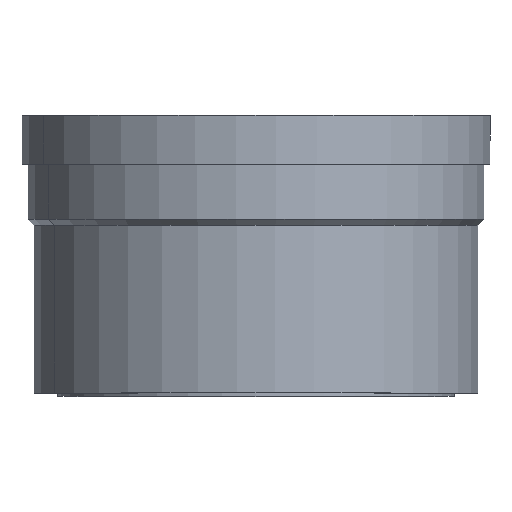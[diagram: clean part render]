
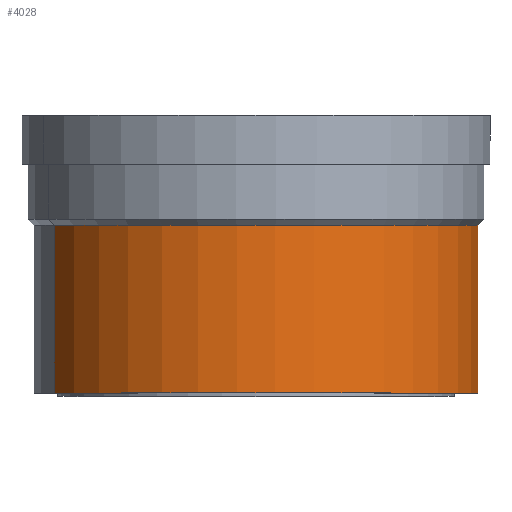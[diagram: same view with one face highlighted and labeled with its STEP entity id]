
A CAD part, top view. The second image highlights one B-rep face of the part: STEP entity #4028.
In plain terms, the highlighted cylindrical face has radius 36.5 mm (diameter 73 mm), a partial arc.
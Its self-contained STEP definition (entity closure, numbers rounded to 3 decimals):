
#392=CARTESIAN_POINT('',(0.,-4.,0.));
#393=DIRECTION('',(0.,1.,0.));
#394=DIRECTION('',(-0.906,0.,0.423));
#395=AXIS2_PLACEMENT_3D('',#392,#393,#394);
#397=DIRECTION('',(0.,-1.,0.));
#398=VECTOR('',#397,27.5);
#399=CARTESIAN_POINT('',(-33.08,-4.,15.426));
#400=LINE('',#399,#398);
#401=DIRECTION('',(0.,1.,0.));
#402=VECTOR('',#401,27.5);
#403=CARTESIAN_POINT('',(33.08,-31.5,-15.426));
#404=LINE('',#403,#402);
#415=CARTESIAN_POINT('',(0.,-31.5,0.));
#416=DIRECTION('',(0.,1.,0.));
#417=DIRECTION('',(-0.906,0.,0.423));
#418=AXIS2_PLACEMENT_3D('',#415,#416,#417);
#3093=CARTESIAN_POINT('',(-33.08,-4.,
15.426));
#3095=VERTEX_POINT('',#3093);
#3098=CARTESIAN_POINT('',(33.08,-4.,-15.426));
#3100=VERTEX_POINT('',#3098);
#3101=CARTESIAN_POINT('',(-33.08,-31.5,15.426));
#3102=VERTEX_POINT('',#3101);
#3103=CARTESIAN_POINT('',(33.08,-31.5,-15.426));
#3104=VERTEX_POINT('',#3103);
#4014=CARTESIAN_POINT('',(0.,-32.05,0.));
#4015=DIRECTION('',(0.,1.,0.));
#4016=DIRECTION('',(0.906,0.,-0.423));
#4017=AXIS2_PLACEMENT_3D('',#4014,#4015,#4016);
#4018=CYLINDRICAL_SURFACE('',#4017,36.5);
#4020=ORIENTED_EDGE('',*,*,#4019,.F.);
#4021=ORIENTED_EDGE('',*,*,#4009,.T.);
#4023=ORIENTED_EDGE('',*,*,#4022,.F.);
#4025=ORIENTED_EDGE('',*,*,#4024,.F.);
#4026=EDGE_LOOP('',(#4020,#4021,#4023,#4025));
#4027=FACE_OUTER_BOUND('',#4026,.F.);
#396=CIRCLE('',#395,36.5);
#419=CIRCLE('',#418,36.5);
#4009=EDGE_CURVE('',#3095,#3100,#396,.T.);
#4019=EDGE_CURVE('',#3095,#3102,#400,.T.);
#4022=EDGE_CURVE('',#3104,#3100,#404,.T.);
#4024=EDGE_CURVE('',#3102,#3104,#419,.T.);
#4028=ADVANCED_FACE('',(#4027),#4018,.T.);
